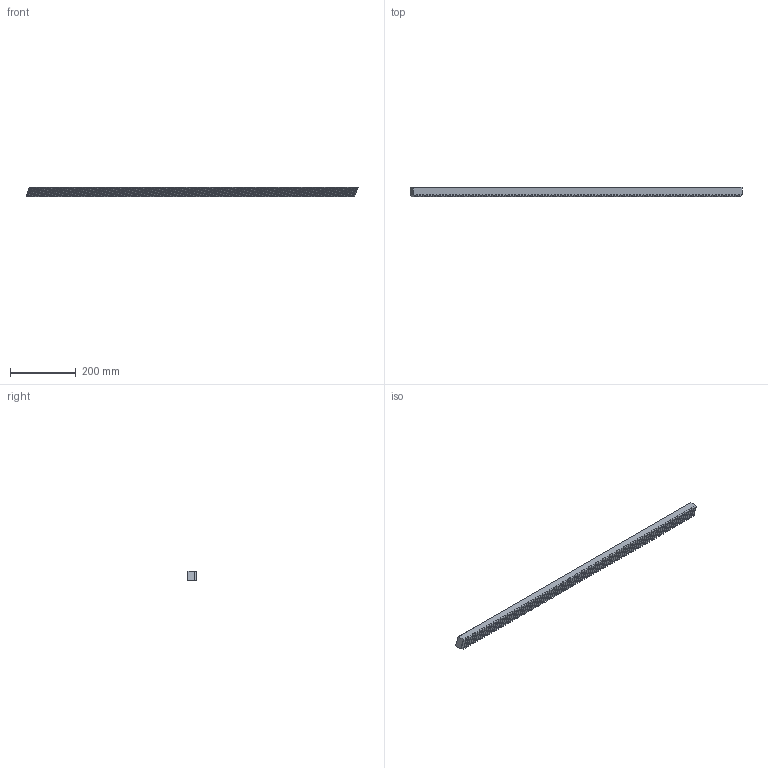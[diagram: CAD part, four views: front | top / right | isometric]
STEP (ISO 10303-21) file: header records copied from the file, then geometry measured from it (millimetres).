
FILE_DESCRIPTION(/* description */ (''),/* implementation_level */ '2;1');
FILE_NAME(/* name */ 'BL-1HR29R030100.ipt',/* time_stamp */ '2019-06-18T14:26:50+02:00',/* author */ ('VĂ©gh MĂˇtĂ©'),/* organization */ ('Bearing Kft'),/* preprocessor_version */ 'ST-DEVELOPER v16.7',/* originating_system */ 'DEX',/* authorisation */ $);
FILE_SCHEMA (('AUTOMOTIVE_DESIGN {1 0 10303 214 3 1 1}'));
Length unit declared in the file: millimetre
Products named in the file (1): BL-1HR29R030100.ipt
Bounding box: 1010.64 x 29 x 30 mm (x, y, z)
Volume: 772080.1 mm3; surface area: 141883.7 mm2
Topology: 1 solids, 1 shells, 933 faces, 2625 edges, 1750 vertices
Faces by surface type: plane 650, bspline 281, cylinder 2
Entity records: 35715 total; most frequent: CARTESIAN_POINT 12938, ORIENTED_EDGE 5230, DIRECTION 3763, EDGE_CURVE 2615, LINE 2049, VECTOR 2049, VERTEX_POINT 1750, EDGE_LOOP 999
